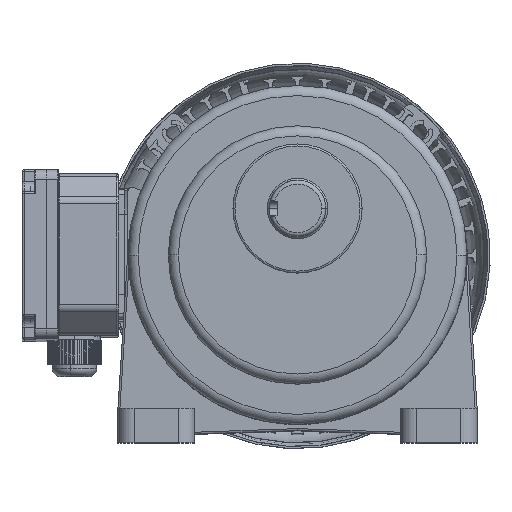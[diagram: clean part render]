
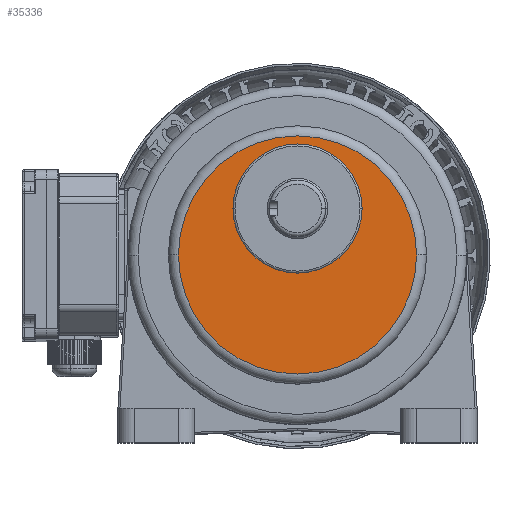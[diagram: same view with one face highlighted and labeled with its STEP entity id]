
A CAD part, top view. The second image highlights one B-rep face of the part: STEP entity #35336.
In plain terms, the highlighted planar face has unit normal (0, 0, 1).
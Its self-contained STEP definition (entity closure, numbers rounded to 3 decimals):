
#25 = PLANE ( 'NONE',  #11425 ) ;
#1244 = DIRECTION ( 'NONE',  ( 0., 0., 1. ) ) ;
#2887 = DIRECTION ( 'NONE',  ( 0., 0., 1. ) ) ;
#4420 = AXIS2_PLACEMENT_3D ( 'NONE', #65615, #1244, #29907 ) ;
#5137 = EDGE_LOOP ( 'NONE', ( #80250, #5807 ) ) ;
#5807 = ORIENTED_EDGE ( 'NONE', *, *, #91121, .T. ) ;
#11425 = AXIS2_PLACEMENT_3D ( 'NONE', #28675, #57351, #86037 ) ;
#12630 = CARTESIAN_POINT ( 'NONE',  ( -59., 0., 286.5 ) ) ;
#12885 = DIRECTION ( 'NONE',  ( 0., 0., 1. ) ) ;
#15118 = VERTEX_POINT ( 'NONE', #26862 ) ;
#17754 = AXIS2_PLACEMENT_3D ( 'NONE', #77276, #12885, #41551 ) ;
#21989 = EDGE_CURVE ( 'NONE', #15118, #34727, #66188, .T. ) ;
#23252 = CARTESIAN_POINT ( 'NONE',  ( 0., 0., 286.5 ) ) ;
#25612 = AXIS2_PLACEMENT_3D ( 'NONE', #67276, #2887, #31540 ) ;
#26862 = CARTESIAN_POINT ( 'NONE',  ( -32., 23., 286.5 ) ) ;
#28177 = ORIENTED_EDGE ( 'NONE', *, *, #21989, .F. ) ;
#28675 = CARTESIAN_POINT ( 'NONE',  ( 0., 0., 286.5 ) ) ;
#29907 = DIRECTION ( 'NONE',  ( 1., 0., 0. ) ) ;
#31540 = DIRECTION ( 'NONE',  ( 1., 0., 0. ) ) ;
#32168 = CIRCLE ( 'NONE', #84755, 59. ) ;
#34727 = VERTEX_POINT ( 'NONE', #43590 ) ;
#35336 = ADVANCED_FACE ( 'NONE', ( #35707, #64402 ), #25, .T. ) ;
#35707 = FACE_OUTER_BOUND ( 'NONE', #5137, .T. ) ;
#36458 = ORIENTED_EDGE ( 'NONE', *, *, #40377, .F. ) ;
#37826 = CARTESIAN_POINT ( 'NONE',  ( 59., 0., 286.5 ) ) ;
#40377 = EDGE_CURVE ( 'NONE', #34727, #15118, #44935, .T. ) ;
#41551 = DIRECTION ( 'NONE',  ( 1., 0., 0. ) ) ;
#43590 = CARTESIAN_POINT ( 'NONE',  ( 32., 23., 286.5 ) ) ;
#44935 = CIRCLE ( 'NONE', #4420, 32. ) ;
#48821 = VERTEX_POINT ( 'NONE', #12630 ) ;
#50146 = EDGE_LOOP ( 'NONE', ( #36458, #28177 ) ) ;
#51936 = DIRECTION ( 'NONE',  ( 0., 0., 1. ) ) ;
#53747 = VERTEX_POINT ( 'NONE', #37826 ) ;
#57351 = DIRECTION ( 'NONE',  ( 0., 0., 1. ) ) ;
#58333 = CIRCLE ( 'NONE', #17754, 59. ) ;
#64402 = FACE_BOUND ( 'NONE', #50146, .T. ) ;
#65615 = CARTESIAN_POINT ( 'NONE',  ( 0., 23., 286.5 ) ) ;
#66188 = CIRCLE ( 'NONE', #25612, 32. ) ;
#67276 = CARTESIAN_POINT ( 'NONE',  ( 0., 23., 286.5 ) ) ;
#77276 = CARTESIAN_POINT ( 'NONE',  ( 0., 0., 286.5 ) ) ;
#80250 = ORIENTED_EDGE ( 'NONE', *, *, #86154, .T. ) ;
#80626 = DIRECTION ( 'NONE',  ( 1., 0., 0. ) ) ;
#84755 = AXIS2_PLACEMENT_3D ( 'NONE', #23252, #51936, #80626 ) ;
#86037 = DIRECTION ( 'NONE',  ( 1., 0., 0. ) ) ;
#86154 = EDGE_CURVE ( 'NONE', #53747, #48821, #32168, .T. ) ;
#91121 = EDGE_CURVE ( 'NONE', #48821, #53747, #58333, .T. ) ;
